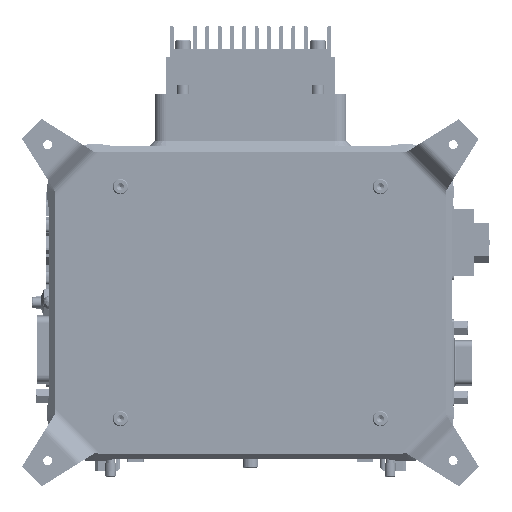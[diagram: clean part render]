
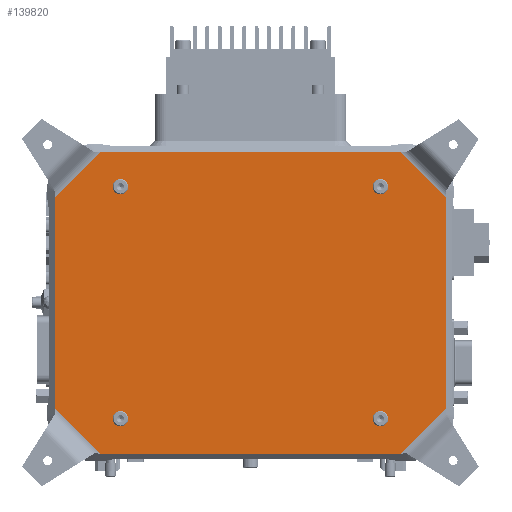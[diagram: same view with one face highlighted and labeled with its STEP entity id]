
A CAD part, front view. The second image highlights one B-rep face of the part: STEP entity #139820.
In plain terms, the highlighted planar face has unit normal (0, -1, 0) as drawn and (0, 0, -1) by its records, which use the part's own axes.
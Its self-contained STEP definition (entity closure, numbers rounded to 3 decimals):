
#403 = VECTOR ( 'NONE', #1095, 1000. ) ;
#1095 = DIRECTION ( 'NONE',  ( 0.707, 0.707, 0. ) ) ;
#5587 = DIRECTION ( 'NONE',  ( 1., 0., 0. ) ) ;
#6912 = CARTESIAN_POINT ( 'NONE',  ( 0., 54., -39. ) ) ;
#7220 = DIRECTION ( 'NONE',  ( 1., 0., 0. ) ) ;
#8627 = VERTEX_POINT ( 'NONE', #157221 ) ;
#9665 = CARTESIAN_POINT ( 'NONE',  ( -53.657, -54., -39. ) ) ;
#11004 = EDGE_CURVE ( 'NONE', #181901, #101749, #184862, .T. ) ;
#14623 = FACE_OUTER_BOUND ( 'NONE', #53824, .T. ) ;
#16620 = FACE_BOUND ( 'NONE', #193892, .T. ) ;
#16696 = DIRECTION ( 'NONE',  ( 1., 0., 0. ) ) ;
#19094 = DIRECTION ( 'NONE',  ( 1., 0., 0. ) ) ;
#20333 = EDGE_CURVE ( 'NONE', #183605, #8627, #152758, .T. ) ;
#21567 = ORIENTED_EDGE ( 'NONE', *, *, #137557, .T. ) ;
#22327 = CIRCLE ( 'NONE', #180474, 1.6 ) ;
#26810 = EDGE_LOOP ( 'NONE', ( #40456 ) ) ;
#30899 = DIRECTION ( 'NONE',  ( 0., 0., 1. ) ) ;
#31557 = EDGE_LOOP ( 'NONE', ( #73845 ) ) ;
#34785 = VECTOR ( 'NONE', #65669, 1000. ) ;
#40456 = ORIENTED_EDGE ( 'NONE', *, *, #155477, .T. ) ;
#41669 = VECTOR ( 'NONE', #45391, 1000. ) ;
#45047 = CARTESIAN_POINT ( 'NONE',  ( 53.828, 53.828, -39. ) ) ;
#45391 = DIRECTION ( 'NONE',  ( -0.707, 0.707, 0. ) ) ;
#45559 = CIRCLE ( 'NONE', #113385, 1.6 ) ;
#48900 = FACE_BOUND ( 'NONE', #72485, .T. ) ;
#53824 = EDGE_LOOP ( 'NONE', ( #109960, #62135, #21567, #77537, #174931, #82497, #93596, #192921 ) ) ;
#53897 = DIRECTION ( 'NONE',  ( -1., 0., 0. ) ) ;
#55917 = DIRECTION ( 'NONE',  ( 0., 0., 1. ) ) ;
#61133 = VECTOR ( 'NONE', #107697, 1000. ) ;
#61644 = ORIENTED_EDGE ( 'NONE', *, *, #141161, .T. ) ;
#62135 = ORIENTED_EDGE ( 'NONE', *, *, #122831, .T. ) ;
#63661 = CARTESIAN_POINT ( 'NONE',  ( 48.1, 41.5, -39. ) ) ;
#64265 = VERTEX_POINT ( 'NONE', #185518 ) ;
#65669 = DIRECTION ( 'NONE',  ( 0., 1., 0. ) ) ;
#68253 = CARTESIAN_POINT ( 'NONE',  ( -46.5, -41.5, -39. ) ) ;
#69176 = AXIS2_PLACEMENT_3D ( 'NONE', #83107, #100278, #7220 ) ;
#70556 = EDGE_CURVE ( 'NONE', #8627, #64265, #144360, .T. ) ;
#72485 = EDGE_LOOP ( 'NONE', ( #61644 ) ) ;
#73845 = ORIENTED_EDGE ( 'NONE', *, *, #91328, .T. ) ;
#75367 = LINE ( 'NONE', #45047, #61133 ) ;
#76304 = PLANE ( 'NONE',  #107714 ) ;
#77537 = ORIENTED_EDGE ( 'NONE', *, *, #11004, .T. ) ;
#78304 = FACE_BOUND ( 'NONE', #26810, .T. ) ;
#82497 = ORIENTED_EDGE ( 'NONE', *, *, #20333, .T. ) ;
#83107 = CARTESIAN_POINT ( 'NONE',  ( -46.5, 41.5, -39. ) ) ;
#88703 = CIRCLE ( 'NONE', #69176, 1.6 ) ;
#89827 = CARTESIAN_POINT ( 'NONE',  ( -44.9, 41.5, -39. ) ) ;
#91328 = EDGE_CURVE ( 'NONE', #127577, #127577, #167758, .T. ) ;
#93564 = CARTESIAN_POINT ( 'NONE',  ( 70., -37.657, -39. ) ) ;
#93596 = ORIENTED_EDGE ( 'NONE', *, *, #70556, .T. ) ;
#94069 = VERTEX_POINT ( 'NONE', #63661 ) ;
#95184 = VECTOR ( 'NONE', #19094, 1000. ) ;
#95666 = DIRECTION ( 'NONE',  ( 0., 0., 1. ) ) ;
#97586 = CARTESIAN_POINT ( 'NONE',  ( 53.657, -54., -39. ) ) ;
#100278 = DIRECTION ( 'NONE',  ( 0., 0., 1. ) ) ;
#101494 = CARTESIAN_POINT ( 'NONE',  ( 46.5, 41.5, -39. ) ) ;
#101749 = VERTEX_POINT ( 'NONE', #199610 ) ;
#103162 = VERTEX_POINT ( 'NONE', #157856 ) ;
#105207 = CARTESIAN_POINT ( 'NONE',  ( -70., 37.657, -39. ) ) ;
#105700 = CARTESIAN_POINT ( 'NONE',  ( 46.5, -41.5, -39. ) ) ;
#107697 = DIRECTION ( 'NONE',  ( 0.707, -0.707, 0. ) ) ;
#107714 = AXIS2_PLACEMENT_3D ( 'NONE', #137937, #139922, #172226 ) ;
#109960 = ORIENTED_EDGE ( 'NONE', *, *, #166875, .T. ) ;
#110614 = FACE_BOUND ( 'NONE', #31557, .T. ) ;
#110968 = EDGE_CURVE ( 'NONE', #94069, #94069, #45559, .T. ) ;
#111201 = CARTESIAN_POINT ( 'NONE',  ( -70., 0., -39. ) ) ;
#111728 = VECTOR ( 'NONE', #179422, 1000. ) ;
#113385 = AXIS2_PLACEMENT_3D ( 'NONE', #101494, #55917, #178261 ) ;
#117750 = LINE ( 'NONE', #149053, #111728 ) ;
#120111 = VERTEX_POINT ( 'NONE', #89827 ) ;
#122831 = EDGE_CURVE ( 'NONE', #142873, #181215, #170473, .T. ) ;
#127577 = VERTEX_POINT ( 'NONE', #158883 ) ;
#130714 = LINE ( 'NONE', #192413, #170165 ) ;
#137557 = EDGE_CURVE ( 'NONE', #181215, #181901, #130714, .T. ) ;
#137591 = CARTESIAN_POINT ( 'NONE',  ( -53.828, 53.828, -39. ) ) ;
#137937 = CARTESIAN_POINT ( 'NONE',  ( 0., 0., -39. ) ) ;
#139820 = ADVANCED_FACE ( 'NONE', ( #48900, #16620, #78304, #110614, #14623 ), #76304, .F. ) ;
#139922 = DIRECTION ( 'NONE',  ( 0., 0., 1. ) ) ;
#141161 = EDGE_CURVE ( 'NONE', #120111, #120111, #88703, .T. ) ;
#142873 = VERTEX_POINT ( 'NONE', #93564 ) ;
#144360 = LINE ( 'NONE', #6912, #95184 ) ;
#144975 = CARTESIAN_POINT ( 'NONE',  ( -44.9, -41.5, -39. ) ) ;
#149053 = CARTESIAN_POINT ( 'NONE',  ( 70., 0., -39. ) ) ;
#151331 = CARTESIAN_POINT ( 'NONE',  ( 53.828, -53.828, -39. ) ) ;
#152758 = LINE ( 'NONE', #137591, #403 ) ;
#154426 = VERTEX_POINT ( 'NONE', #144975 ) ;
#155477 = EDGE_CURVE ( 'NONE', #154426, #154426, #22327, .T. ) ;
#157221 = CARTESIAN_POINT ( 'NONE',  ( -53.657, 54., -39. ) ) ;
#157856 = CARTESIAN_POINT ( 'NONE',  ( 70., 37.657, -39. ) ) ;
#158883 = CARTESIAN_POINT ( 'NONE',  ( 48.1, -41.5, -39. ) ) ;
#159272 = ORIENTED_EDGE ( 'NONE', *, *, #110968, .T. ) ;
#160487 = VECTOR ( 'NONE', #169504, 1000. ) ;
#166875 = EDGE_CURVE ( 'NONE', #103162, #142873, #117750, .T. ) ;
#167758 = CIRCLE ( 'NONE', #199945, 1.6 ) ;
#168680 = CARTESIAN_POINT ( 'NONE',  ( -53.828, -53.828, -39. ) ) ;
#169504 = DIRECTION ( 'NONE',  ( -0.707, -0.707, 0. ) ) ;
#170165 = VECTOR ( 'NONE', #53897, 1000. ) ;
#170473 = LINE ( 'NONE', #151331, #160487 ) ;
#172226 = DIRECTION ( 'NONE',  ( 1., 0., 0. ) ) ;
#174931 = ORIENTED_EDGE ( 'NONE', *, *, #197653, .T. ) ;
#178261 = DIRECTION ( 'NONE',  ( 1., 0., 0. ) ) ;
#179422 = DIRECTION ( 'NONE',  ( 0., -1., 0. ) ) ;
#180474 = AXIS2_PLACEMENT_3D ( 'NONE', #68253, #95666, #5587 ) ;
#181215 = VERTEX_POINT ( 'NONE', #97586 ) ;
#181901 = VERTEX_POINT ( 'NONE', #9665 ) ;
#183605 = VERTEX_POINT ( 'NONE', #105207 ) ;
#184862 = LINE ( 'NONE', #168680, #41669 ) ;
#185518 = CARTESIAN_POINT ( 'NONE',  ( 53.657, 54., -39. ) ) ;
#187024 = LINE ( 'NONE', #111201, #34785 ) ;
#192413 = CARTESIAN_POINT ( 'NONE',  ( 0., -54., -39. ) ) ;
#192921 = ORIENTED_EDGE ( 'NONE', *, *, #200045, .T. ) ;
#193892 = EDGE_LOOP ( 'NONE', ( #159272 ) ) ;
#197653 = EDGE_CURVE ( 'NONE', #101749, #183605, #187024, .T. ) ;
#199610 = CARTESIAN_POINT ( 'NONE',  ( -70., -37.657, -39. ) ) ;
#199945 = AXIS2_PLACEMENT_3D ( 'NONE', #105700, #30899, #16696 ) ;
#200045 = EDGE_CURVE ( 'NONE', #64265, #103162, #75367, .T. ) ;
